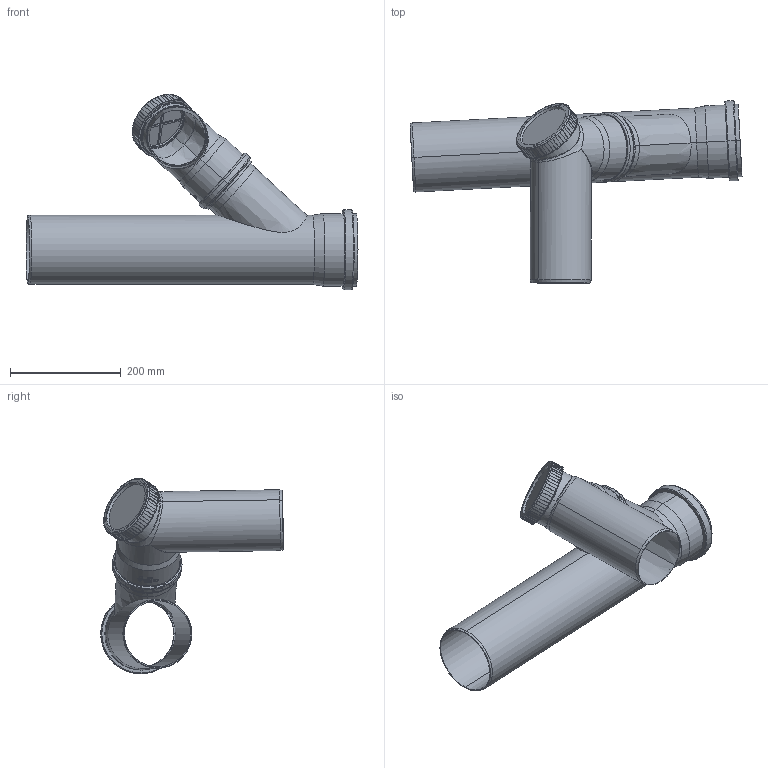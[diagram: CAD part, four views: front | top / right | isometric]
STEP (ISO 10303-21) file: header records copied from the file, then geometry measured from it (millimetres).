
FILE_DESCRIPTION((''),'2;1');
FILE_NAME('20-5511113203_ASM','2022-02-18T09:37:37',('ctgas'),('Centrotherm'),'CREO PARAMETRIC BY PTC INC, 2020281','CREO PARAMETRIC BY PTC INC, 2020281','');
FILE_SCHEMA(('AP242_MANAGED_MODEL_BASED_3D_ENGINEERING_MIM_LF { 1 0 10303 442 1 1 4 }'));
Length unit declared in the file: millimetre
Products named in the file (11): 20-1100001811_1000_AF0; 20-1100004792_AF0; 20-1100008876_ASM; 34014010; 20-1100008877_ASM; 20-1100000543; 20-0002073000; 20-0034033000; 20-0034013010; 20-1100002662_ASM; 20-5511113203_ASM
Assembly tree (10 placements, depth 4):
  20-5511113203_ASM
    20-1100008877_ASM
      20-1100008876_ASM
        20-1100001811_1000_AF0
        20-1100004792_AF0
      34014010
    20-1100002662_ASM
      20-1100000543
      20-0002073000
      20-0034033000
      20-0034013010
Bounding box: 600.14 x 330.45 x 353.66 mm (x, y, z)
Volume: 1268858.7 mm3; surface area: 895774.9 mm2
Topology: 7 solids, 7 shells, 1012 faces, 2590 edges, 1632 vertices
Faces by surface type: plane 641, cylinder 162, cone 94, torus 70, bspline 34, extrusion 7, sphere 4
Entity records: 46541 total; most frequent: CARTESIAN_POINT 14133, ORIENTED_EDGE 5180, DIRECTION 4679, PRESENTATION_STYLE_ASSIGNMENT 2597, STYLED_ITEM 2597, CURVE_STYLE 2590, EDGE_CURVE 2590, AXIS2_PLACEMENT_3D 1735
